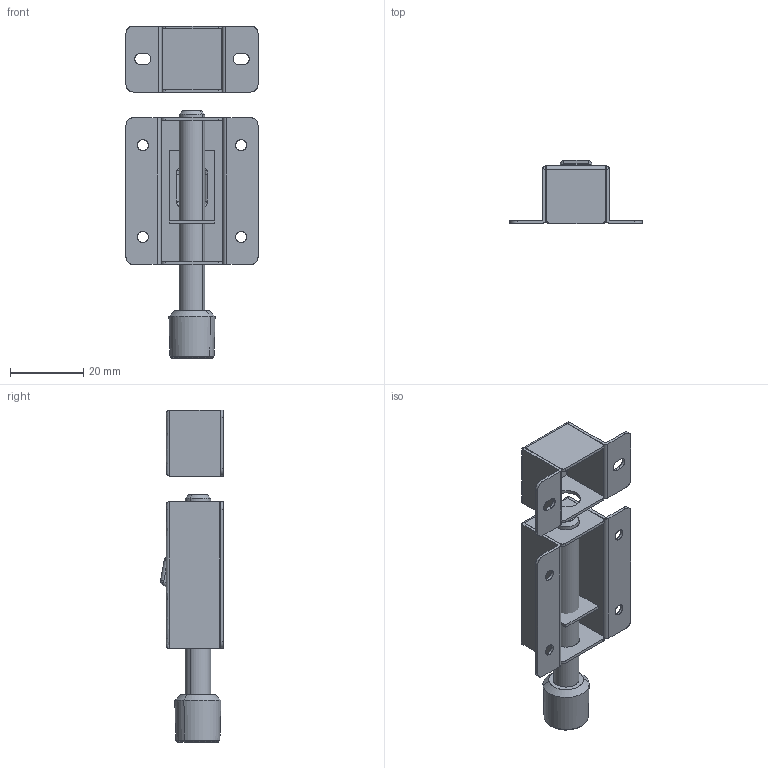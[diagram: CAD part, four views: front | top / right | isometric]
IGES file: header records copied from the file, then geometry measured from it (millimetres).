
Start section: SolidWorks IGES file using analytic representation for surfaces
Bounding box: 36 x 17.2 x 90.5 mm (x, y, z)
Surface area: 12215.6 mm2 (no closed solid volume)
Topology: 0 solids, 0 shells, 224 faces, 2399 edges, 2396 vertices
Faces by surface type: bspline 120, revolution 104
